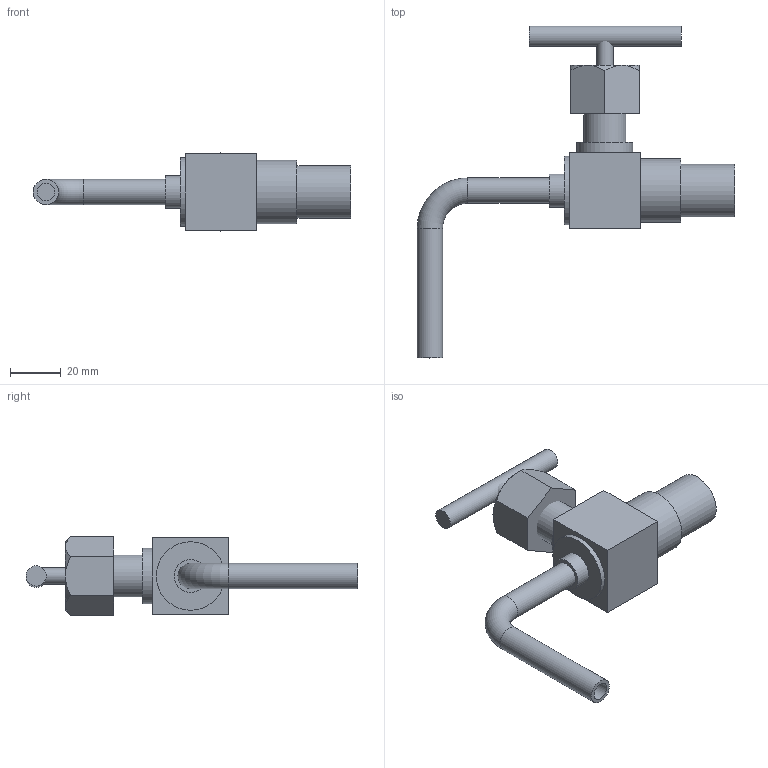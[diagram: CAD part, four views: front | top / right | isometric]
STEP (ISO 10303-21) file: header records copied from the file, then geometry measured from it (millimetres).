
FILE_DESCRIPTION(/* description */ (''),/* implementation_level */ '2;1');
FILE_NAME(/* name */ 'C:/Users/thoma/Downloads/RB4800 v1.step',/* time_stamp */ '2020-05-16T04:15:36+02:00',/* author */ (''),/* organization */ (''),/* preprocessor_version */ 'ST-DEVELOPER v18.1',/* originating_system */ 'Autodesk Translation Framework v9.3.0.1241',/* authorisation */ '');
FILE_SCHEMA (('AUTOMOTIVE_DESIGN { 1 0 10303 214 3 1 1 }'));
Length unit declared in the file: millimetre
Products named in the file (2): RB4800; 50925K638
Assembly tree (1 placements, depth 2):
  RB4800
    50925K638
Bounding box: 125.22 x 130.9 x 31.16 mm (x, y, z)
Volume: 68022.3 mm3; surface area: 20606.5 mm2
Topology: 3 solids, 4 shells, 50 faces, 94 edges, 61 vertices
Faces by surface type: plane 28, cylinder 12, cone 7, torus 2, bspline 1
Full cylindrical faces by diameter (mm): 6.5 x1, 7 x1, 8 x1, 10 x2, 13 x1, 14.961 x1, 16.537 x1, 20.813 x1, 22 x1, 25 x1, 27 x1
Entity records: 2073 total; most frequent: CARTESIAN_POINT 1020, DIRECTION 222, ORIENTED_EDGE 186, EDGE_CURVE 93, AXIS2_PLACEMENT_3D 91, VERTEX_POINT 61, EDGE_LOOP 60, FACE_OUTER_BOUND 50
